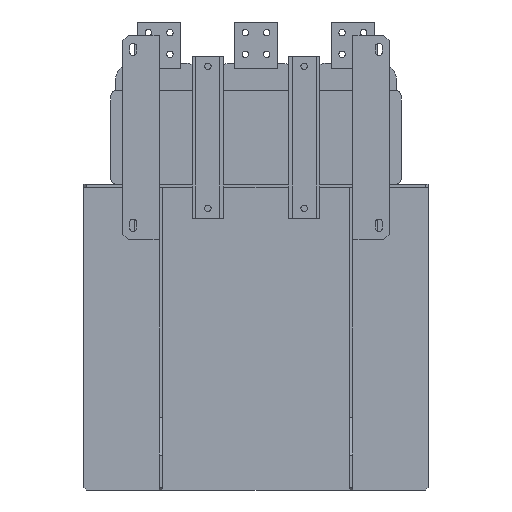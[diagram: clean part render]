
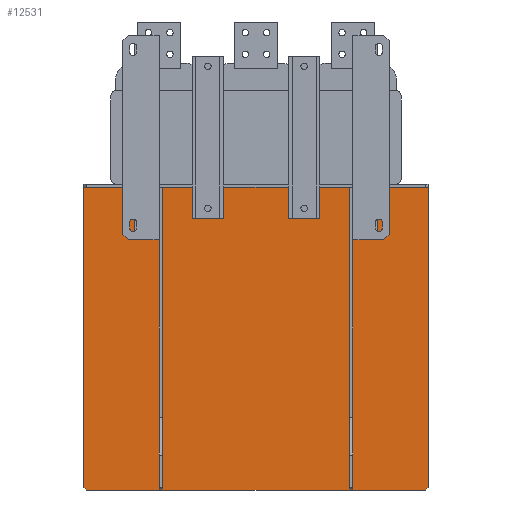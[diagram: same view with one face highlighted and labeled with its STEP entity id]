
A CAD part, front view. The second image highlights one B-rep face of the part: STEP entity #12531.
In plain terms, the highlighted planar face has unit normal (0, -1, 0).
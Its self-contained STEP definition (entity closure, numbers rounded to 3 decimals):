
#554=PLANE('',#13594);
#1208=FACE_OUTER_BOUND('',#2094,.T.);
#2094=EDGE_LOOP('',(#9895,#9896,#9897,#9898,#9899,#9900));
#3152=LINE('',#19435,#4501);
#3162=LINE('',#19455,#4511);
#3165=LINE('',#19461,#4514);
#3170=LINE('',#19470,#4519);
#3172=LINE('',#19474,#4521);
#3173=LINE('',#19476,#4522);
#4501=VECTOR('',#15683,10.);
#4511=VECTOR('',#15699,10.);
#4514=VECTOR('',#15704,10.);
#4519=VECTOR('',#15711,10.);
#4521=VECTOR('',#15717,10.);
#4522=VECTOR('',#15720,10.);
#6157=VERTEX_POINT('',#19432);
#6158=VERTEX_POINT('',#19434);
#6164=VERTEX_POINT('',#19452);
#6165=VERTEX_POINT('',#19454);
#6167=VERTEX_POINT('',#19460);
#6170=VERTEX_POINT('',#19468);
#7496=EDGE_CURVE('',#6157,#6158,#3152,.T.);
#7506=EDGE_CURVE('',#6164,#6165,#3162,.T.);
#7509=EDGE_CURVE('',#6167,#6157,#3165,.T.);
#7514=EDGE_CURVE('',#6170,#6167,#3170,.T.);
#7516=EDGE_CURVE('',#6165,#6170,#3172,.T.);
#7517=EDGE_CURVE('',#6158,#6164,#3173,.T.);
#9895=ORIENTED_EDGE('',*,*,#7509,.F.);
#9896=ORIENTED_EDGE('',*,*,#7514,.F.);
#9897=ORIENTED_EDGE('',*,*,#7516,.F.);
#9898=ORIENTED_EDGE('',*,*,#7506,.F.);
#9899=ORIENTED_EDGE('',*,*,#7517,.F.);
#9900=ORIENTED_EDGE('',*,*,#7496,.F.);
#12531=ADVANCED_FACE('',(#1208),#554,.T.);
#13594=AXIS2_PLACEMENT_3D('',#19475,#15718,#15719);
#15683=DIRECTION('',(0.,0.,1.));
#15699=DIRECTION('',(0.,0.,-1.));
#15704=DIRECTION('',(-0.707,0.,0.707));
#15711=DIRECTION('',(-1.,0.,0.));
#15717=DIRECTION('',(-0.707,0.,-0.707));
#15718=DIRECTION('center_axis',(0.,-1.,0.));
#15719=DIRECTION('ref_axis',(0.,0.,-1.));
#15720=DIRECTION('',(1.,0.,0.));
#19432=CARTESIAN_POINT('',(-320.,130.,-650.5));
#19434=CARTESIAN_POINT('',(-320.,130.,-93.));
#19435=CARTESIAN_POINT('',(-320.,130.,-93.));
#19452=CARTESIAN_POINT('',(320.,130.,-93.));
#19454=CARTESIAN_POINT('',(320.,130.,-650.5));
#19455=CARTESIAN_POINT('',(320.,130.,-93.));
#19460=CARTESIAN_POINT('',(-315.,130.,-655.5));
#19461=CARTESIAN_POINT('',(-378.125,130.,-592.375));
#19468=CARTESIAN_POINT('',(315.,130.,-655.5));
#19470=CARTESIAN_POINT('',(0.,130.,-655.5));
#19474=CARTESIAN_POINT('',(378.125,130.,-592.375));
#19475=CARTESIAN_POINT('Origin',(0.,130.,-93.));
#19476=CARTESIAN_POINT('',(0.,130.,-93.));
